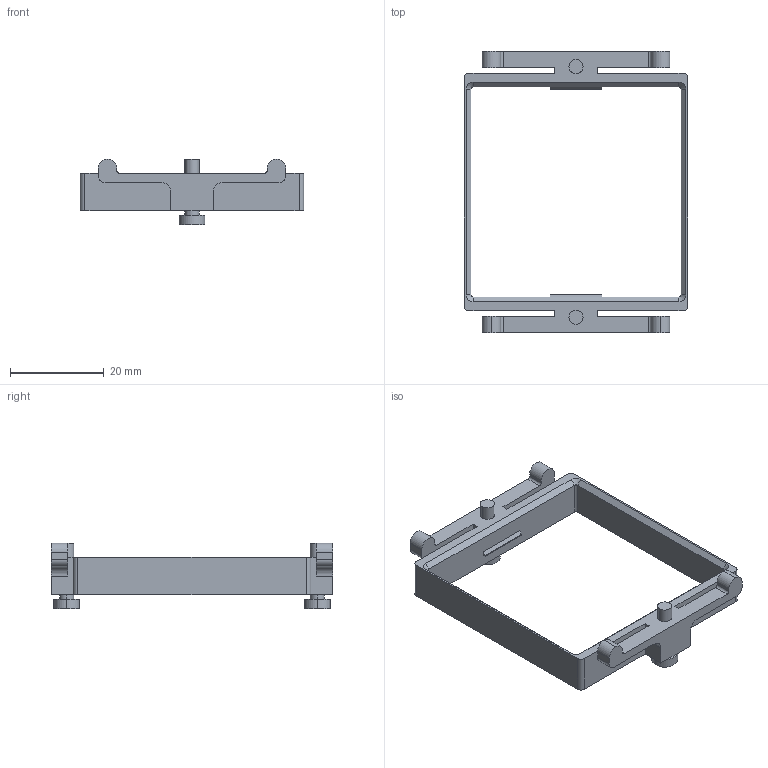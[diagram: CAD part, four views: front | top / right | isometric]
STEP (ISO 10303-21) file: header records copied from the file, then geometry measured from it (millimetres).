
FILE_DESCRIPTION (( 'STEP AP203' ), '1' );
FILE_NAME ('取付枠.STEP', '2016-04-18T10:30:46', ( '' ), ( '' ), 'SwSTEP 2.0', 'SolidWorks 2013', '' );
FILE_SCHEMA (( 'CONFIG_CONTROL_DESIGN' ));
Length unit declared in the file: millimetre
Products named in the file (1): 取付枠
Bounding box: 47.6 x 60 x 14 mm (x, y, z)
Volume: 4535 mm3; surface area: 5033.8 mm2
Topology: 1 solids, 1 shells, 96 faces, 250 edges, 164 vertices
Faces by surface type: plane 54, cylinder 38, cone 4
Entity records: 3031 total; most frequent: DIRECTION 524, CARTESIAN_POINT 511, ORIENTED_EDGE 500, EDGE_CURVE 250, AXIS2_PLACEMENT_3D 177, VECTOR 170, LINE 170, VERTEX_POINT 164
